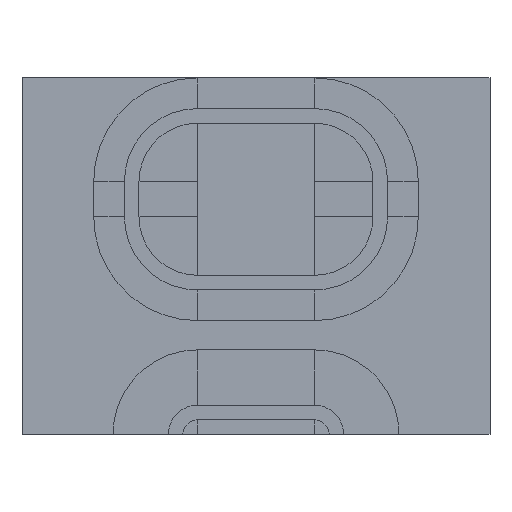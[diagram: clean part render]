
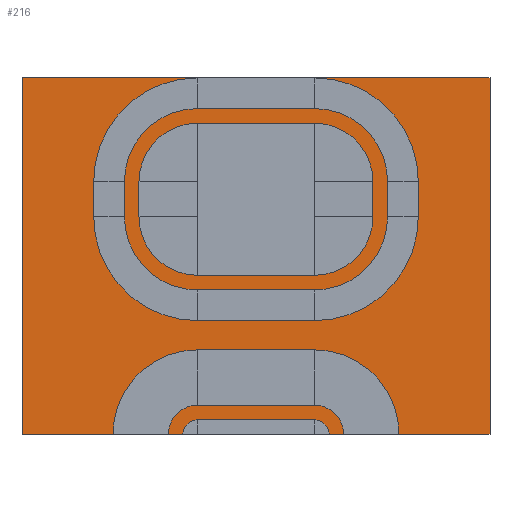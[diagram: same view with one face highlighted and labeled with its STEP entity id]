
A CAD part, front view. The second image highlights one B-rep face of the part: STEP entity #216.
In plain terms, the highlighted planar face has unit normal (0, -1, 0).
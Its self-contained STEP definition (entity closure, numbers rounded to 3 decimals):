
#216=ADVANCED_FACE('',(#345),#346,.T.);
#345=FACE_OUTER_BOUND('',#597,.T.);
#346=PLANE('',#598);
#597=EDGE_LOOP('',(#859,#860,#861,#862));
#598=AXIS2_PLACEMENT_3D('',#863,#864,#865);
#859=ORIENTED_EDGE('',*,*,#1722,.T.);
#860=ORIENTED_EDGE('',*,*,#1723,.F.);
#861=ORIENTED_EDGE('',*,*,#1724,.F.);
#862=ORIENTED_EDGE('',*,*,#1720,.T.);
#863=CARTESIAN_POINT('',(0.0,71.5,0.0));
#864=DIRECTION('',(0.0,-1.0,0.0));
#865=DIRECTION('',(1.0,0.0,-0.0));
#1720=EDGE_CURVE('',#1971,#1969,#1972,.T.);
#1722=EDGE_CURVE('',#1969,#1974,#1975,.T.);
#1723=EDGE_CURVE('',#1976,#1974,#1977,.T.);
#1724=EDGE_CURVE('',#1971,#1976,#1978,.T.);
#1969=VERTEX_POINT('',#2381);
#1971=VERTEX_POINT('',#2384);
#1972=LINE('',#2385,#2386);
#1974=VERTEX_POINT('',#2389);
#1975=LINE('',#2390,#2391);
#1976=VERTEX_POINT('',#2392);
#1977=LINE('',#2393,#2394);
#1978=LINE('',#2395,#2396);
#2381=CARTESIAN_POINT('',(80.0,71.5,122.0));
#2384=CARTESIAN_POINT('',(80.0,71.5,0.0));
#2385=CARTESIAN_POINT('',(80.0,71.5,0.0));
#2386=VECTOR('',#2998,1.0);
#2389=CARTESIAN_POINT('',(-80.0,71.5,122.0));
#2390=CARTESIAN_POINT('',(80.0,71.5,122.0));
#2391=VECTOR('',#3000,1.0);
#2392=CARTESIAN_POINT('',(-80.0,71.5,0.0));
#2393=CARTESIAN_POINT('',(-80.0,71.5,0.0));
#2394=VECTOR('',#3001,1.0);
#2395=CARTESIAN_POINT('',(80.0,71.5,0.0));
#2396=VECTOR('',#3002,1.0);
#2998=DIRECTION('',(0.0,0.0,1.0));
#3000=DIRECTION('',(-1.0,0.0,0.0));
#3001=DIRECTION('',(0.0,0.0,1.0));
#3002=DIRECTION('',(-1.0,0.0,0.0));
